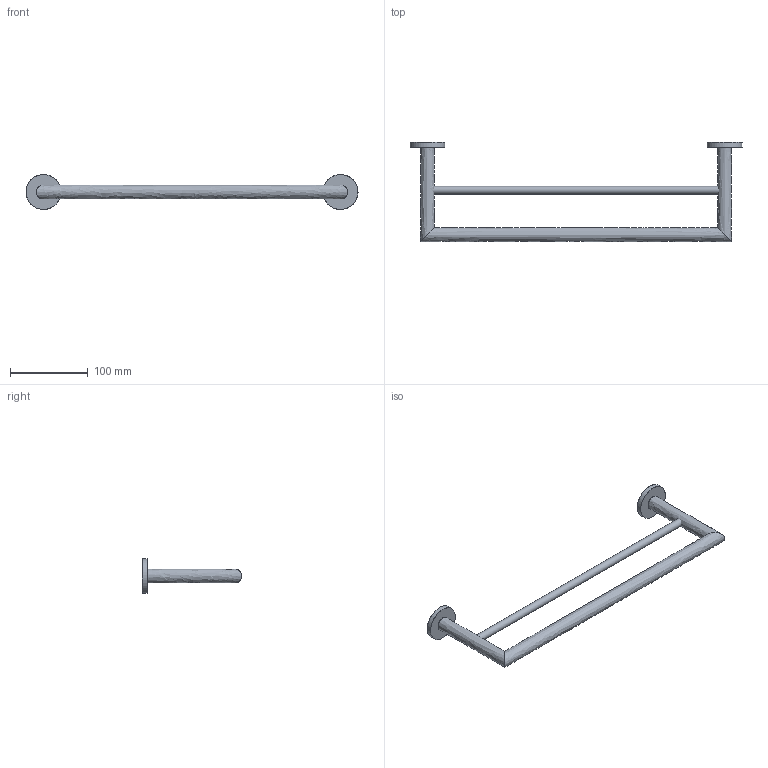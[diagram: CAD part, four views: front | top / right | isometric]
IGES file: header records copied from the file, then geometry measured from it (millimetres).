
Global section: file name: /Users/f/Desktop/I'/AE216.igs; native system: Rhinoceros ( Jul 22 2010 ); preprocessor: Trout Lake IGES 012 Jul 22 2010; date: 100727.153857; units: millimetre
Bounding box: 427 x 127.5 x 45 mm (x, y, z)
Surface area: 55086.1 mm2 (no closed solid volume)
Topology: 0 solids, 0 shells, 14 faces, 213 edges, 210 vertices
Faces by surface type: bspline 14
